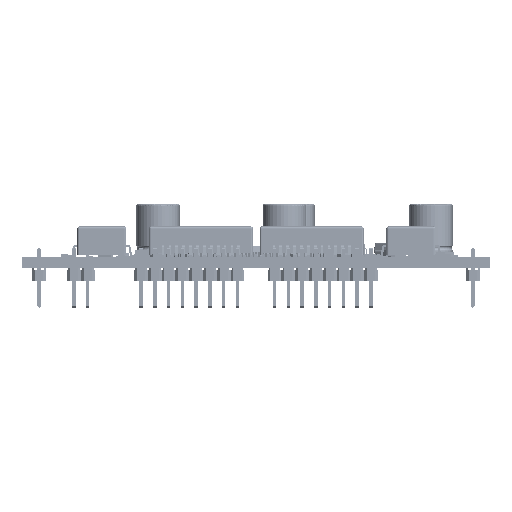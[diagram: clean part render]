
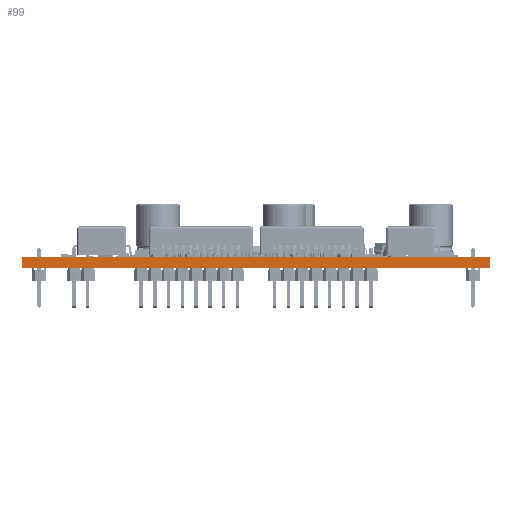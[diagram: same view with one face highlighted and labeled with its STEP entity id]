
A CAD part, front view. The second image highlights one B-rep face of the part: STEP entity #99.
In plain terms, the highlighted planar face has unit normal (0, -1, 0).
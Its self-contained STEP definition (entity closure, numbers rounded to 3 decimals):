
#74 = VERTEX_POINT('',#75);
#75 = CARTESIAN_POINT('',(67.987,0.013,    1.6));
#81 = EDGE_CURVE('',#82,#74,#84,.T.);
#82 = VERTEX_POINT('',#83);
#83 = CARTESIAN_POINT('',(67.987,0.013,0.));
#84 = LINE('',#85,#86);
#85 = CARTESIAN_POINT('',(67.987,0.013,0.));
#86 = VECTOR('',#87,1.);
#87 = DIRECTION('',(0.,0.,1.));
#99 = ADVANCED_FACE('',(#100),#125,.T.);
#100 = FACE_BOUND('',#101,.T.);
#101 = EDGE_LOOP('',(#102,#103,#111,#119));
#102 = ORIENTED_EDGE('',*,*,#81,.T.);
#103 = ORIENTED_EDGE('',*,*,#104,.T.);
#104 = EDGE_CURVE('',#74,#105,#107,.T.);
#105 = VERTEX_POINT('',#106);
#106 = CARTESIAN_POINT('',(0.013,0.013,    1.6));
#107 = LINE('',#108,#109);
#108 = CARTESIAN_POINT('',(67.987,0.013,    1.6));
#109 = VECTOR('',#110,1.);
#110 = DIRECTION('',(-1.,0.,0.));
#111 = ORIENTED_EDGE('',*,*,#112,.F.);
#112 = EDGE_CURVE('',#113,#105,#115,.T.);
#113 = VERTEX_POINT('',#114);
#114 = CARTESIAN_POINT('',(0.013,0.013,0.));
#115 = LINE('',#116,#117);
#116 = CARTESIAN_POINT('',(0.013,0.013,0.));
#117 = VECTOR('',#118,1.);
#118 = DIRECTION('',(0.,0.,1.));
#119 = ORIENTED_EDGE('',*,*,#120,.F.);
#120 = EDGE_CURVE('',#82,#113,#121,.T.);
#121 = LINE('',#122,#123);
#122 = CARTESIAN_POINT('',(67.987,0.013,0.));
#123 = VECTOR('',#124,1.);
#124 = DIRECTION('',(-1.,0.,0.));
#125 = PLANE('',#126);
#126 = AXIS2_PLACEMENT_3D('',#127,#128,#129);
#127 = CARTESIAN_POINT('',(67.987,0.013,0.));
#128 = DIRECTION('',(0.,-1.,0.));
#129 = DIRECTION('',(-1.,0.,0.));
